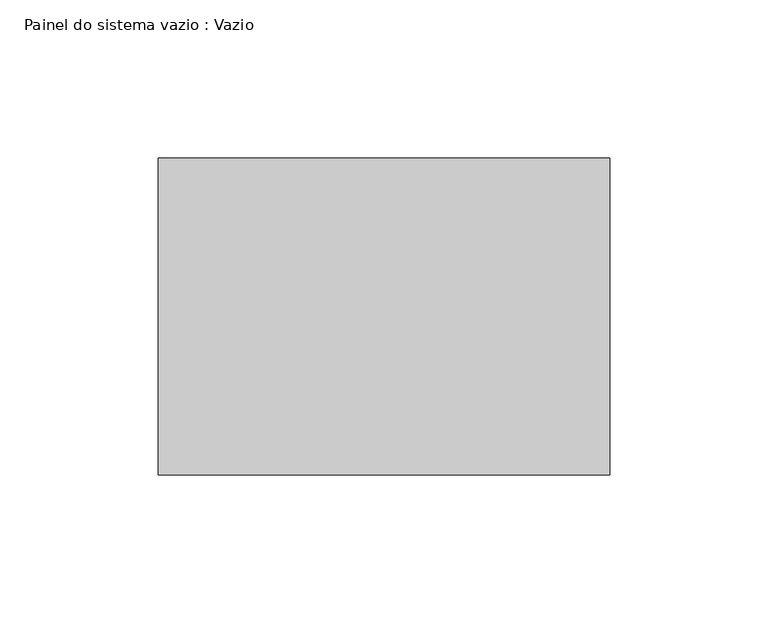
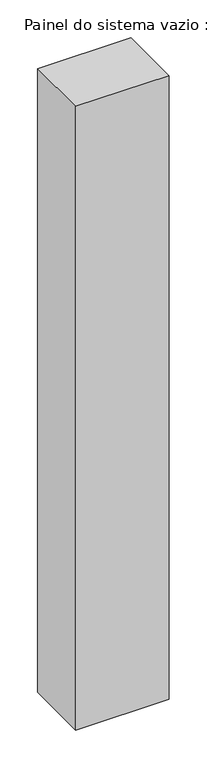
"""IFC4 building model written with IfcOpenShell, lengths in millimetres: plate geometry, Painel do sistema vazio : Vazio."""

from ifc_helpers import new_model, si_unit, origin, origin_with_axes, place, context, project, spatial, polyline, outline, extrude, source, transform, mapped, element, save


def painel_do_sistema_vazio_vazio_cea5b844(model_context):
    return source(origin(), model_context, "Body", "SweptSolid", [
        extrude(outline(polyline([(71.215457, -50.0), (-71.215457, -50.0), (-71.215457, 50.0), (71.215457, 50.0), (71.215457, -50.0)])), origin_with_axes(), (0.0, 0.0, 1.0), 1005.0),
    ])


if __name__ == "__main__":
    model = new_model("IFC4")
    model_context = context("Model", 3, world=origin())
    ifc_project = project(units=[si_unit("LENGTHUNIT", "METRE", prefix="MILLI")], contexts=[model_context])
    site = spatial("IfcSite", under=ifc_project)
    building = spatial("IfcBuilding", under=site)
    placement = place(None, origin())
    painel_do_sistema_vazio_vazio_shape = painel_do_sistema_vazio_vazio_cea5b844(model_context)
    element("IfcPlate", 1, ObjectType="Painel do sistema vazio : Vazio", at=placement, inside=building, context=model_context, shape_type="MappedRepresentation", body=[
        mapped(painel_do_sistema_vazio_vazio_shape, transform((0.0, 0.0, 0.0), x_axis=(1.0, 0.0, 0.0), y_axis=(0.0, 1.0, 0.0), z_axis=(0.0, 0.0, 1.0))),
    ])
    save(model, "model.ifc")
